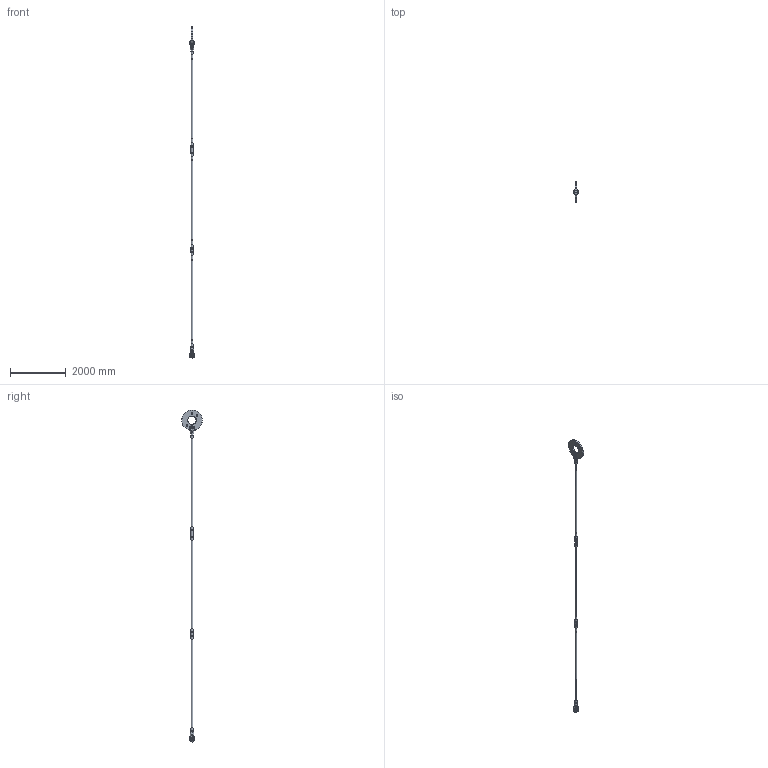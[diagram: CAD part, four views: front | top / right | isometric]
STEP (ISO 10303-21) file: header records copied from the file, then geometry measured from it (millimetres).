
FILE_DESCRIPTION(/* description */ (''),/* implementation_level */ '2;1');
FILE_NAME(/* name */ 'C:\Vault-WS\Anker\Werksnorm\Hochbau\ASDO-System\ASDO-S\System Komplett\Step\M 060.stp',/* time_stamp */ '2014-01-30T09:21:13+01:00',/* author */ ('ritgen'),/* organization */ (''),/* preprocessor_version */ 'ST-DEVELOPER v15.2',/* originating_system */ 'Autodesk Inventor 2014',/* authorisation */ '');
FILE_SCHEMA (('AUTOMOTIVE_DESIGN { 1 0 10303 214 3 1 1 }'));
Length unit declared in the file: millimetre
Products named in the file (11): ASDO-005763; ASDO-007947; ASDO-014324; DIN 7991 - M10x25 - 8.8; ASDO-013937; ASDO-001687; ASDO-001330; ASDO-001456; ASDO-013984; ASDO-014024; ASDO-013983
Bounding box: 154 x 739.3 x 11954.82 mm (x, y, z)
Volume: 57594204.1 mm3; surface area: 4122031.5 mm2
Topology: 20 solids, 20 shells, 467 faces, 1000 edges, 610 vertices
Faces by surface type: plane 156, bspline 144, cylinder 81, cone 44, torus 42
Full cylindrical faces by diameter (mm): 7 x18, 8.376 x2, 10 x2, 12 x2, 20 x2, 54.046 x11, 60 x5, 62 x10, 63 x1, 64 x6, 86.1 x6, 92 x4, 95 x2, 300 x1, 740 x1
Entity records: 14019 total; most frequent: CARTESIAN_POINT 9616, DIRECTION 798, ORIENTED_EDGE 792, EDGE_CURVE 396, AXIS2_PLACEMENT_3D 360, EDGE_LOOP 324, VERTEX_POINT 276, ADVANCED_FACE 219
